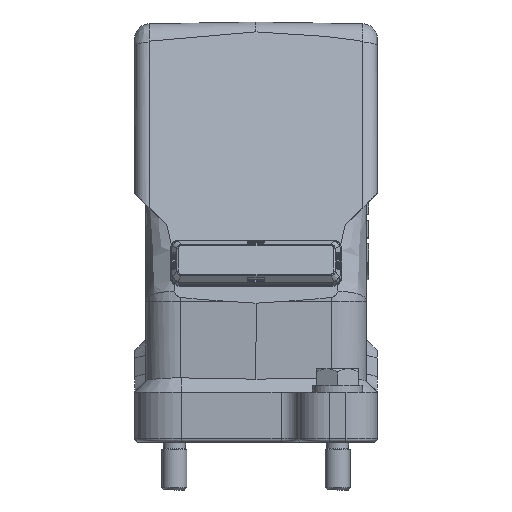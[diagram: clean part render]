
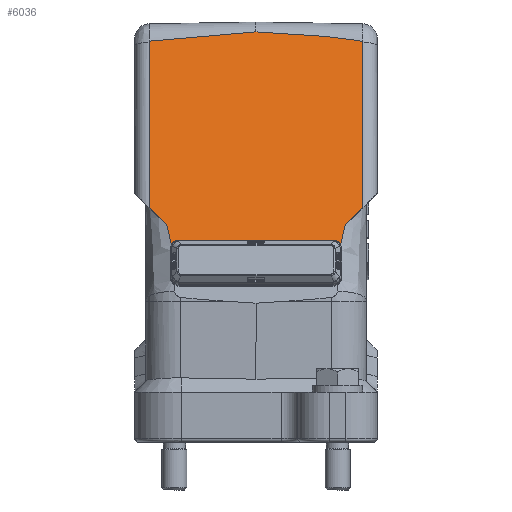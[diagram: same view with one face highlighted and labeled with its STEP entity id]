
A CAD part, left-side view. The second image highlights one B-rep face of the part: STEP entity #6036.
In plain terms, the highlighted planar face has unit normal (-0.966, 0, 0.259).
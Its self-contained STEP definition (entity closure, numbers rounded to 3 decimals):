
#3441=PLANE('',#13799);
#3694=FACE_OUTER_BOUND('',#6968,.T.);
#4243=ELLIPSE('',#13796,343.823,6.);
#4244=ELLIPSE('',#13797,343.823,6.);
#4308=B_SPLINE_CURVE_WITH_KNOTS('',3,(#17397,#17398,#17399,#17400),
 .UNSPECIFIED.,.F.,.F.,(4,4),(0.,1.),.UNSPECIFIED.);
#4315=B_SPLINE_CURVE_WITH_KNOTS('',3,(#17595,#17596,#17597,#17598),
 .UNSPECIFIED.,.F.,.F.,(4,4),(0.,1.),.UNSPECIFIED.);
#4481=LINE('',#17768,#5258);
#4482=LINE('',#17772,#5259);
#4483=LINE('',#17774,#5260);
#4484=LINE('',#17780,#5261);
#4485=LINE('',#17782,#5262);
#5258=VECTOR('',#14739,1.);
#5259=VECTOR('',#14742,1.);
#5260=VECTOR('',#14743,1.);
#5261=VECTOR('',#14748,1.);
#5262=VECTOR('',#14749,1.);
#6036=ADVANCED_FACE('',(#3694),#3441,.F.);
#6968=EDGE_LOOP('',(#7685,#7686,#7687,#7688,#7689,#7690,#7691,#7692,#7693,
#7694,#7695));
#7685=ORIENTED_EDGE('',*,*,#11473,.T.);
#7686=ORIENTED_EDGE('',*,*,#11474,.T.);
#7687=ORIENTED_EDGE('',*,*,#11459,.F.);
#7688=ORIENTED_EDGE('',*,*,#11475,.F.);
#7689=ORIENTED_EDGE('',*,*,#11476,.F.);
#7690=ORIENTED_EDGE('',*,*,#11477,.T.);
#7691=ORIENTED_EDGE('',*,*,#11478,.T.);
#7692=ORIENTED_EDGE('',*,*,#11479,.T.);
#7693=ORIENTED_EDGE('',*,*,#11480,.T.);
#7694=ORIENTED_EDGE('',*,*,#11467,.T.);
#7695=ORIENTED_EDGE('',*,*,#11481,.T.);
#10555=VERTEX_POINT('',#17401);
#10556=VERTEX_POINT('',#17402);
#10561=VERTEX_POINT('',#17593);
#10563=VERTEX_POINT('',#17599);
#10567=VERTEX_POINT('',#17769);
#10568=VERTEX_POINT('',#17770);
#10569=VERTEX_POINT('',#17773);
#10570=VERTEX_POINT('',#17775);
#10571=VERTEX_POINT('',#17777);
#10572=VERTEX_POINT('',#17779);
#10573=VERTEX_POINT('',#17781);
#11459=EDGE_CURVE('',#10555,#10556,#4308,.T.);
#11467=EDGE_CURVE('',#10563,#10561,#4315,.T.);
#11473=EDGE_CURVE('',#10567,#10568,#4481,.T.);
#11474=EDGE_CURVE('',#10568,#10556,#12895,.T.);
#11475=EDGE_CURVE('',#10569,#10555,#4482,.T.);
#11476=EDGE_CURVE('',#10570,#10569,#4483,.T.);
#11477=EDGE_CURVE('',#10570,#10571,#4243,.T.);
#11478=EDGE_CURVE('',#10571,#10572,#4244,.T.);
#11479=EDGE_CURVE('',#10572,#10573,#4484,.T.);
#11480=EDGE_CURVE('',#10573,#10563,#4485,.T.);
#11481=EDGE_CURVE('',#10561,#10567,#12896,.T.);
#12895=CIRCLE('',#13795,2.147);
#12896=CIRCLE('',#13798,2.147);
#13795=AXIS2_PLACEMENT_3D('',#17771,#14740,#14741);
#13796=AXIS2_PLACEMENT_3D('',#17776,#14744,#14745);
#13797=AXIS2_PLACEMENT_3D('',#17778,#14746,#14747);
#13798=AXIS2_PLACEMENT_3D('',#17783,#14750,#14751);
#13799=AXIS2_PLACEMENT_3D('',#17784,#14752,#14753);
#14739=DIRECTION('',(0.,-1.,0.));
#14740=DIRECTION('',(0.966,0.,-0.259));
#14741=DIRECTION('',(-0.259,0.,-0.966));
#14742=DIRECTION('',(-0.185,0.701,-0.689));
#14743=DIRECTION('',(-0.259,0.,-0.966));
#14744=DIRECTION('',(-0.966,0.,0.259));
#14745=DIRECTION('',(0.003,1.,0.013));
#14746=DIRECTION('',(-0.966,0.,0.259));
#14747=DIRECTION('',(-0.003,1.,-0.013));
#14748=DIRECTION('',(-0.259,0.,-0.966));
#14749=DIRECTION('',(-0.185,-0.701,-0.689));
#14750=DIRECTION('',(0.966,0.,-0.259));
#14751=DIRECTION('',(-0.259,0.,-0.966));
#14752=DIRECTION('',(0.966,0.,-0.259));
#14753=DIRECTION('',(-0.259,0.,-0.966));
#17397=CARTESIAN_POINT('',(-46.477,-21.388,34.022));
#17398=CARTESIAN_POINT('',(-46.918,-20.852,32.376));
#17399=CARTESIAN_POINT('',(-47.37,-20.448,30.69));
#17400=CARTESIAN_POINT('',(-47.827,-20.155,28.985));
#17401=CARTESIAN_POINT('',(-46.478,-21.386,34.019));
#17402=CARTESIAN_POINT('',(-47.827,-20.155,28.985));
#17593=CARTESIAN_POINT('',(-47.827,20.155,28.985));
#17595=CARTESIAN_POINT('',(-46.479,21.386,34.014));
#17596=CARTESIAN_POINT('',(-46.919,20.851,32.371));
#17597=CARTESIAN_POINT('',(-47.371,20.448,30.687));
#17598=CARTESIAN_POINT('',(-47.827,20.155,28.985));
#17599=CARTESIAN_POINT('',(-46.479,21.385,34.016));
#17768=CARTESIAN_POINT('',(-47.572,-30.,29.937));
#17769=CARTESIAN_POINT('',(-47.572,18.35,29.937));
#17770=CARTESIAN_POINT('',(-47.572,-18.35,29.937));
#17771=CARTESIAN_POINT('',(-48.127,-18.35,27.864));
#17772=CARTESIAN_POINT('',(-44.559,-28.675,41.181));
#17773=CARTESIAN_POINT('',(-45.379,-25.561,38.121));
#17774=CARTESIAN_POINT('',(-34.798,-25.561,77.607));
#17775=CARTESIAN_POINT('',(-34.798,-25.561,77.607));
#17776=CARTESIAN_POINT('',(-33.607,318.231,82.054));
#17777=CARTESIAN_POINT('',(-34.122,0.,80.131));
#17778=CARTESIAN_POINT('',(-33.607,-318.231,82.054));
#17779=CARTESIAN_POINT('',(-34.798,25.561,77.607));
#17780=CARTESIAN_POINT('',(-34.798,25.561,77.607));
#17781=CARTESIAN_POINT('',(-45.379,25.561,38.121));
#17782=CARTESIAN_POINT('',(-44.559,28.675,41.181));
#17783=CARTESIAN_POINT('',(-48.127,18.35,27.864));
#17784=CARTESIAN_POINT('',(-33.962,-30.,80.73));
